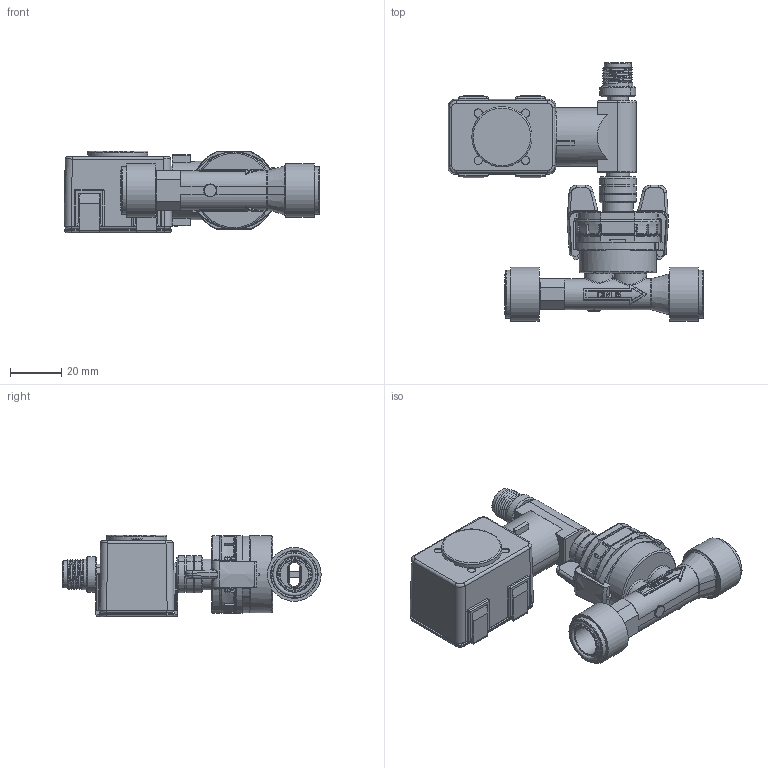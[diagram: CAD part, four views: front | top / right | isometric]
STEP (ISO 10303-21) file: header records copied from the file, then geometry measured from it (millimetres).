
FILE_DESCRIPTION(/* description */ (''),/* implementation_level */ '2;1');
FILE_NAME(/* name */ '212_x06xxxxxK.stp',/* time_stamp */ '2019-07-04T07:48:38+02:00',/* author */ (''),/* organization */ (''),/* preprocessor_version */ 'ST-DEVELOPER v16.7',/* originating_system */ 'SIEMENS PLM Software NX 12.0',/* authorisation */ '');
FILE_SCHEMA (('AUTOMOTIVE_DESIGN { 1 0 10303 214 3 1 1 1 }'));
Products named in the file (1): model1
Bounding box: 99.77 x 100.71 x 31.88 mm (x, y, z)
Volume: 83245.6 mm3; surface area: 44200.1 mm2
Topology: 15 solids, 20 shells, 1673 faces, 4390 edges, 2750 vertices
Faces by surface type: plane 623, cylinder 494, torus 151, bspline 131, cone 116, extrusion 112, sphere 46
Full cylindrical faces by diameter (mm): 1 x5, 3.234 x4, 4.85 x1, 5.76 x2, 7.98 x4, 8.15 x2, 8.98 x1, 9.25 x1, 10 x1, 10.4 x1, 10.6 x1, 11.5 x2, 12 x1, 12.85 x2, 15.17 x1, 15.4 x1, 16.093 x1, 16.75 x2, 18.6 x2, 19.707 x1, 20.955 x2, 23.426 x1, 30 x1
Entity records: 71927 total; most frequent: CARTESIAN_POINT 22504, ORIENTED_EDGE 8356, DIRECTION 7687, EDGE_CURVE 4178, AXIS2_PLACEMENT_3D 2907, VERTEX_POINT 2693, VECTOR 1873, EDGE_LOOP 1869
